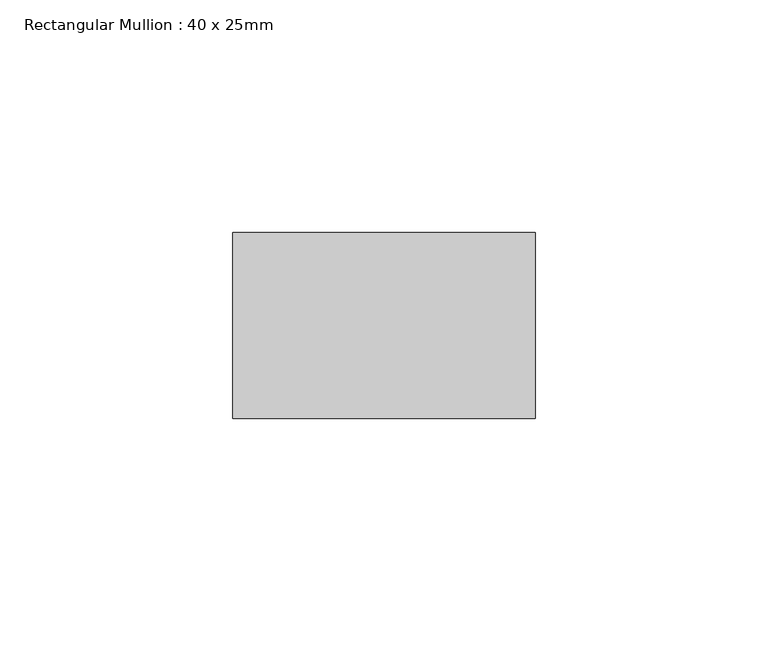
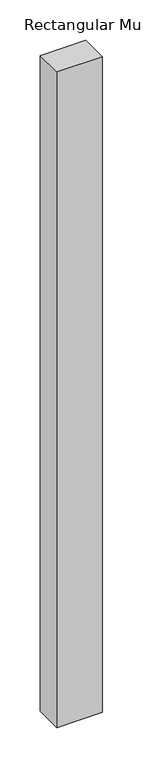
"""IFC4 building model written with IfcOpenShell, lengths in millimetres: member geometry, Rectangular Mullion : 40 x 25mm."""

from ifc_helpers import new_model, si_unit, frame, origin, place, context, project, spatial, polyline, outline, extrude, source, transform, mapped, element, save


def rectangular_mullion_40_x_25mm_81a8f2f9(model_context):
    return source(origin(), model_context, "Body", "SweptSolid", [
        extrude(outline(polyline([(0.0, -20.0), (0.0, -60.0), (-65.0, -60.0), (-65.0, -20.0), (0.0, -20.0)])), frame((0.0, 0.0, -990.0), z_axis=(0.0, 0.0, 1.0), x_axis=(1.0, 0.0, 0.0)), (0.0, 0.0, 1.0), 990.0),
    ])


if __name__ == "__main__":
    model = new_model("IFC4")
    model_context = context("Model", 3, world=origin())
    ifc_project = project(units=[si_unit("LENGTHUNIT", "METRE", prefix="MILLI")], contexts=[model_context])
    site = spatial("IfcSite", under=ifc_project)
    building = spatial("IfcBuilding", under=site)
    placement = place(None, origin())
    rectangular_mullion_40_x_25mm_shape = rectangular_mullion_40_x_25mm_81a8f2f9(model_context)
    element("IfcMember", 1, ObjectType="Rectangular Mullion : 40 x 25mm", at=placement, inside=building, context=model_context, shape_type="MappedRepresentation", body=[
        mapped(rectangular_mullion_40_x_25mm_shape, transform((0.0, 0.0, 0.0), x_axis=(1.0, 0.0, 0.0), y_axis=(0.0, 1.0, 0.0), z_axis=(0.0, 0.0, 1.0))),
    ])
    save(model, "model.ifc")
